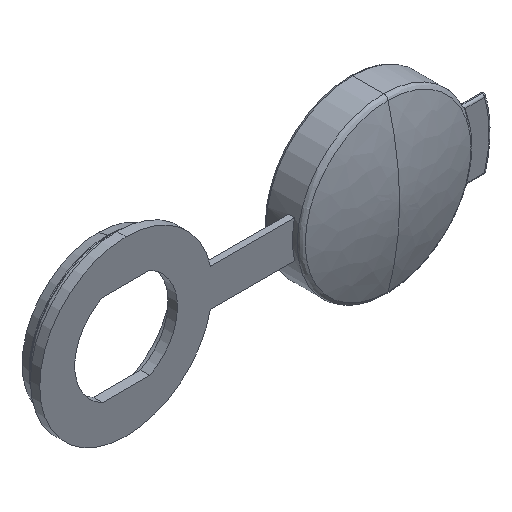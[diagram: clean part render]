
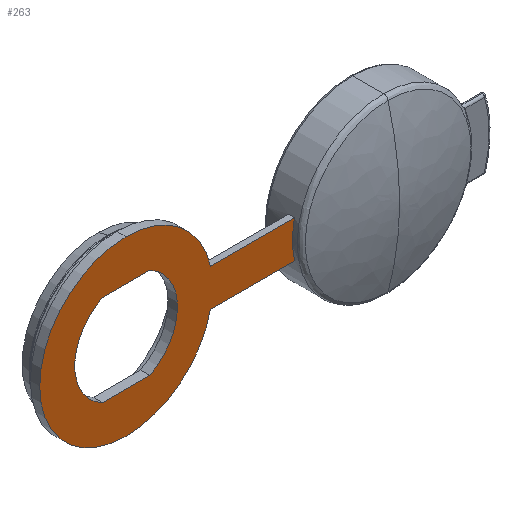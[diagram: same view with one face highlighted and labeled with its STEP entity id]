
A CAD part, isometric view. The second image highlights one B-rep face of the part: STEP entity #263.
In plain terms, the highlighted planar face has unit normal (0, -1, 0).
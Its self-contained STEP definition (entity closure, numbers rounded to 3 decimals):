
#8 = CIRCLE ( 'NONE', #2018, 18.5 ) ;
#16 = ORIENTED_EDGE ( 'NONE', *, *, #758, .F. ) ;
#18 = EDGE_LOOP ( 'NONE', ( #1363, #620, #1061, #1188, #1673, #498 ) ) ;
#39 = VECTOR ( 'NONE', #865, 1000. ) ;
#42 = VERTEX_POINT ( 'NONE', #78 ) ;
#51 = AXIS2_PLACEMENT_3D ( 'NONE', #1676, #1680, #1682 ) ;
#78 = CARTESIAN_POINT ( 'NONE',  ( 0., 0., -18.5 ) ) ;
#87 = ORIENTED_EDGE ( 'NONE', *, *, #1520, .F. ) ;
#109 = LINE ( 'NONE', #995, #538 ) ;
#118 = DIRECTION ( 'NONE',  ( 0., 0., -1. ) ) ;
#218 = CARTESIAN_POINT ( 'NONE',  ( -5.093, 0., 9.75 ) ) ;
#250 = VERTEX_POINT ( 'NONE', #1617 ) ;
#256 = CARTESIAN_POINT ( 'NONE',  ( 0., 0., -4. ) ) ;
#263 = ADVANCED_FACE ( 'NONE', ( #1718, #1269 ), #448, .F. ) ;
#277 = DIRECTION ( 'NONE',  ( -1., 0., 0. ) ) ;
#341 = VERTEX_POINT ( 'NONE', #1598 ) ;
#405 = AXIS2_PLACEMENT_3D ( 'NONE', #1140, #1325, #1144 ) ;
#448 = PLANE ( 'NONE',  #1098 ) ;
#498 = ORIENTED_EDGE ( 'NONE', *, *, #1198, .F. ) ;
#519 = EDGE_CURVE ( 'NONE', #847, #1179, #1293, .T. ) ;
#524 = DIRECTION ( 'NONE',  ( 0., -1., 0. ) ) ;
#526 = CARTESIAN_POINT ( 'NONE',  ( 0., 0., 4. ) ) ;
#538 = VECTOR ( 'NONE', #1251, 1000. ) ;
#558 = CIRCLE ( 'NONE', #51, 11. ) ;
#566 = EDGE_CURVE ( 'NONE', #341, #1610, #1241, .T. ) ;
#581 = DIRECTION ( 'NONE',  ( 0., 0., -1. ) ) ;
#620 = ORIENTED_EDGE ( 'NONE', *, *, #1279, .F. ) ;
#639 = VECTOR ( 'NONE', #658, 1000. ) ;
#642 = CARTESIAN_POINT ( 'NONE',  ( 5.093, 0., 9.75 ) ) ;
#658 = DIRECTION ( 'NONE',  ( 1., 0., 0. ) ) ;
#710 = AXIS2_PLACEMENT_3D ( 'NONE', #751, #1758, #581 ) ;
#751 = CARTESIAN_POINT ( 'NONE',  ( 0., 0., 0. ) ) ;
#757 = CARTESIAN_POINT ( 'NONE',  ( 0., 0., 18.5 ) ) ;
#758 = EDGE_CURVE ( 'NONE', #250, #1933, #109, .T. ) ;
#787 = CARTESIAN_POINT ( 'NONE',  ( 18.062, 0., 4. ) ) ;
#791 = LINE ( 'NONE', #256, #1575 ) ;
#847 = VERTEX_POINT ( 'NONE', #642 ) ;
#850 = ORIENTED_EDGE ( 'NONE', *, *, #1678, .F. ) ;
#865 = DIRECTION ( 'NONE',  ( -1., 0., 0. ) ) ;
#877 = CARTESIAN_POINT ( 'NONE',  ( 0., 0., 0. ) ) ;
#879 = DIRECTION ( 'NONE',  ( 0., 1., 0. ) ) ;
#885 = DIRECTION ( 'NONE',  ( 0., 0., -1. ) ) ;
#932 = ORIENTED_EDGE ( 'NONE', *, *, #519, .F. ) ;
#935 = DIRECTION ( 'NONE',  ( 0., 1., 0. ) ) ;
#955 = AXIS2_PLACEMENT_3D ( 'NONE', #1297, #1401, #1405 ) ;
#982 = CARTESIAN_POINT ( 'NONE',  ( 5.093, 0., -9.75 ) ) ;
#995 = CARTESIAN_POINT ( 'NONE',  ( 0., 0., -9.75 ) ) ;
#1061 = ORIENTED_EDGE ( 'NONE', *, *, #1543, .F. ) ;
#1081 = LINE ( 'NONE', #526, #639 ) ;
#1098 = AXIS2_PLACEMENT_3D ( 'NONE', #1280, #935, #1948 ) ;
#1140 = CARTESIAN_POINT ( 'NONE',  ( 0., 0., 0. ) ) ;
#1144 = DIRECTION ( 'NONE',  ( 0., 0., -1. ) ) ;
#1171 = CARTESIAN_POINT ( 'NONE',  ( 18.062, 0., -4. ) ) ;
#1179 = VERTEX_POINT ( 'NONE', #218 ) ;
#1188 = ORIENTED_EDGE ( 'NONE', *, *, #1436, .F. ) ;
#1198 = EDGE_CURVE ( 'NONE', #1610, #1572, #791, .T. ) ;
#1208 = EDGE_CURVE ( 'NONE', #1572, #42, #1975, .T. ) ;
#1241 = CIRCLE ( 'NONE', #1848, 18.5 ) ;
#1251 = DIRECTION ( 'NONE',  ( 1., 0., 0. ) ) ;
#1269 = FACE_BOUND ( 'NONE', #1659, .T. ) ;
#1279 = EDGE_CURVE ( 'NONE', #1414, #341, #1081, .T. ) ;
#1280 = CARTESIAN_POINT ( 'NONE',  ( 0., 0., 0. ) ) ;
#1293 = LINE ( 'NONE', #2042, #39 ) ;
#1297 = CARTESIAN_POINT ( 'NONE',  ( 0., 0., 0. ) ) ;
#1325 = DIRECTION ( 'NONE',  ( 0., -1., 0. ) ) ;
#1363 = ORIENTED_EDGE ( 'NONE', *, *, #566, .F. ) ;
#1401 = DIRECTION ( 'NONE',  ( 0., 1., 0. ) ) ;
#1405 = DIRECTION ( 'NONE',  ( 0., 0., -1. ) ) ;
#1414 = VERTEX_POINT ( 'NONE', #787 ) ;
#1436 = EDGE_CURVE ( 'NONE', #42, #2054, #8, .T. ) ;
#1493 = CARTESIAN_POINT ( 'NONE',  ( 36.062, 0., -4. ) ) ;
#1520 = EDGE_CURVE ( 'NONE', #1179, #250, #2047, .T. ) ;
#1543 = EDGE_CURVE ( 'NONE', #2054, #1414, #2102, .T. ) ;
#1572 = VERTEX_POINT ( 'NONE', #1171 ) ;
#1575 = VECTOR ( 'NONE', #277, 1000. ) ;
#1598 = CARTESIAN_POINT ( 'NONE',  ( 36.062, 0., 4. ) ) ;
#1610 = VERTEX_POINT ( 'NONE', #1493 ) ;
#1617 = CARTESIAN_POINT ( 'NONE',  ( -5.093, 0., -9.75 ) ) ;
#1659 = EDGE_LOOP ( 'NONE', ( #87, #932, #850, #16 ) ) ;
#1673 = ORIENTED_EDGE ( 'NONE', *, *, #1208, .F. ) ;
#1676 = CARTESIAN_POINT ( 'NONE',  ( 0., 0., 0. ) ) ;
#1678 = EDGE_CURVE ( 'NONE', #1933, #847, #558, .T. ) ;
#1680 = DIRECTION ( 'NONE',  ( 0., -1., 0. ) ) ;
#1682 = DIRECTION ( 'NONE',  ( 0., 0., -1. ) ) ;
#1689 = CARTESIAN_POINT ( 'NONE',  ( 54.125, 0., 0. ) ) ;
#1718 = FACE_OUTER_BOUND ( 'NONE', #18, .T. ) ;
#1758 = DIRECTION ( 'NONE',  ( 0., 1., 0. ) ) ;
#1848 = AXIS2_PLACEMENT_3D ( 'NONE', #1689, #524, #118 ) ;
#1933 = VERTEX_POINT ( 'NONE', #982 ) ;
#1948 = DIRECTION ( 'NONE',  ( 0., 0., 1. ) ) ;
#1975 = CIRCLE ( 'NONE', #710, 18.5 ) ;
#2018 = AXIS2_PLACEMENT_3D ( 'NONE', #877, #879, #885 ) ;
#2042 = CARTESIAN_POINT ( 'NONE',  ( 0., 0., 9.75 ) ) ;
#2047 = CIRCLE ( 'NONE', #405, 11. ) ;
#2054 = VERTEX_POINT ( 'NONE', #757 ) ;
#2102 = CIRCLE ( 'NONE', #955, 18.5 ) ;
